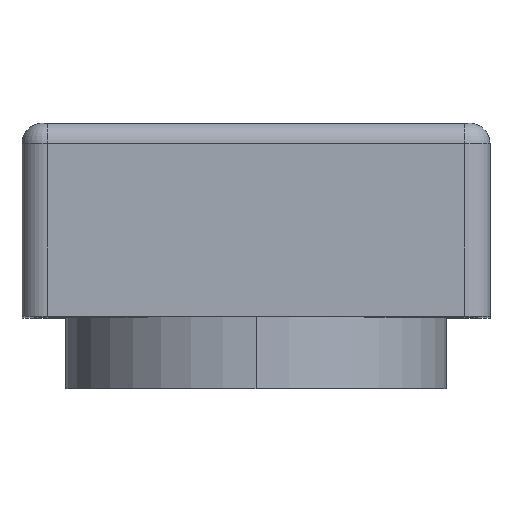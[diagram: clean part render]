
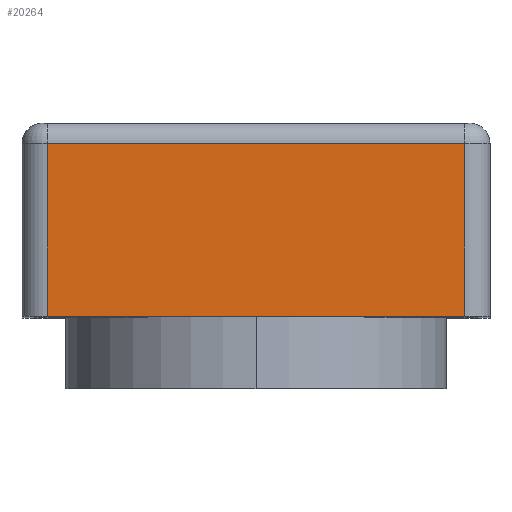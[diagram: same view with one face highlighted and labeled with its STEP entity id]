
A CAD part, top view. The second image highlights one B-rep face of the part: STEP entity #20264.
In plain terms, the highlighted planar face has unit normal (0, 0, 1).
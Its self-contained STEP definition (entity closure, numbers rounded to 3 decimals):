
#722 = LINE ( 'NONE', #26185, #2199 ) ;
#982 = CARTESIAN_POINT ( 'NONE',  ( 41., 14., 107.5 ) ) ;
#1464 = DIRECTION ( 'NONE',  ( -1., 0., 0. ) ) ;
#2199 = VECTOR ( 'NONE', #2914, 1000. ) ;
#2914 = DIRECTION ( 'NONE',  ( 0., -1., 0. ) ) ;
#3583 = EDGE_CURVE ( 'NONE', #28856, #15417, #18645, .T. ) ;
#3977 = CARTESIAN_POINT ( 'NONE',  ( 41., 48., 107.5 ) ) ;
#5406 = ORIENTED_EDGE ( 'NONE', *, *, #3583, .F. ) ;
#6958 = VERTEX_POINT ( 'NONE', #14378 ) ;
#7767 = ORIENTED_EDGE ( 'NONE', *, *, #22952, .T. ) ;
#8210 = DIRECTION ( 'NONE',  ( -1., 0., 0. ) ) ;
#8458 = EDGE_CURVE ( 'NONE', #22680, #6958, #12872, .T. ) ;
#10827 = EDGE_LOOP ( 'NONE', ( #5406, #17198, #19421, #7767 ) ) ;
#12872 = LINE ( 'NONE', #26828, #22046 ) ;
#12954 = CARTESIAN_POINT ( 'NONE',  ( -41., 14., 107.5 ) ) ;
#14378 = CARTESIAN_POINT ( 'NONE',  ( -41., 48., 107.5 ) ) ;
#15417 = VERTEX_POINT ( 'NONE', #12954 ) ;
#16818 = DIRECTION ( 'NONE',  ( 0., 1., 0. ) ) ;
#17198 = ORIENTED_EDGE ( 'NONE', *, *, #22339, .T. ) ;
#17203 = VECTOR ( 'NONE', #8210, 1000. ) ;
#17999 = LINE ( 'NONE', #23587, #27167 ) ;
#18480 = CARTESIAN_POINT ( 'NONE',  ( 41., 14., 107.5 ) ) ;
#18645 = LINE ( 'NONE', #982, #17203 ) ;
#19421 = ORIENTED_EDGE ( 'NONE', *, *, #8458, .T. ) ;
#20264 = ADVANCED_FACE ( 'NONE', ( #26876 ), #20823, .F. ) ;
#20823 = PLANE ( 'NONE',  #27640 ) ;
#22046 = VECTOR ( 'NONE', #1464, 1000. ) ;
#22339 = EDGE_CURVE ( 'NONE', #28856, #22680, #17999, .T. ) ;
#22680 = VERTEX_POINT ( 'NONE', #3977 ) ;
#22952 = EDGE_CURVE ( 'NONE', #6958, #15417, #722, .T. ) ;
#23587 = CARTESIAN_POINT ( 'NONE',  ( 41., 52., 107.5 ) ) ;
#25331 = DIRECTION ( 'NONE',  ( 0., 0., -1. ) ) ;
#25425 = DIRECTION ( 'NONE',  ( -1., 0., 0. ) ) ;
#26185 = CARTESIAN_POINT ( 'NONE',  ( -41., 52., 107.5 ) ) ;
#26828 = CARTESIAN_POINT ( 'NONE',  ( -42., 48., 107.5 ) ) ;
#26876 = FACE_OUTER_BOUND ( 'NONE', #10827, .T. ) ;
#27167 = VECTOR ( 'NONE', #16818, 1000. ) ;
#27640 = AXIS2_PLACEMENT_3D ( 'NONE', #29896, #25331, #25425 ) ;
#28856 = VERTEX_POINT ( 'NONE', #18480 ) ;
#29896 = CARTESIAN_POINT ( 'NONE',  ( -42., 52., 107.5 ) ) ;
